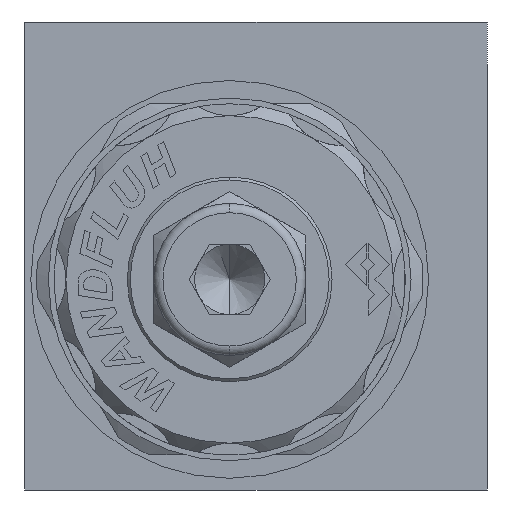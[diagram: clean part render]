
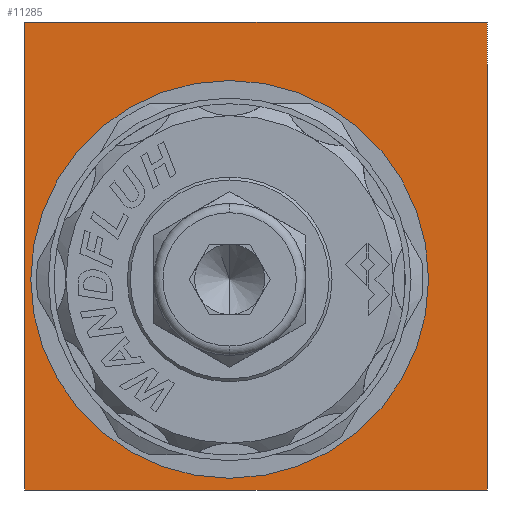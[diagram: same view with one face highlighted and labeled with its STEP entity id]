
A CAD part, left-side view. The second image highlights one B-rep face of the part: STEP entity #11285.
In plain terms, the highlighted planar face has unit normal (-1, 0, 0).
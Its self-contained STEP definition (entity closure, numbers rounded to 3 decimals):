
#407 = LINE ( 'NONE', #9235, #18691 ) ;
#766 = DIRECTION ( 'NONE',  ( -1., 0., 0. ) ) ;
#956 = LINE ( 'NONE', #16717, #9394 ) ;
#1184 = EDGE_CURVE ( 'NONE', #13690, #20050, #956, .T. ) ;
#1591 = CARTESIAN_POINT ( 'NONE',  ( 0., 2.25, -2. ) ) ;
#2503 = DIRECTION ( 'NONE',  ( 0., -1., 0. ) ) ;
#2533 = DIRECTION ( 'NONE',  ( 0., 0., -1. ) ) ;
#2637 = ORIENTED_EDGE ( 'NONE', *, *, #8347, .F. ) ;
#2803 = EDGE_LOOP ( 'NONE', ( #6827, #4906, #2637, #9630 ) ) ;
#2936 = CARTESIAN_POINT ( 'NONE',  ( 0., 2.25, 15. ) ) ;
#3382 = VECTOR ( 'NONE', #2533, 1000. ) ;
#3391 = DIRECTION ( 'NONE',  ( 0., 0., 1. ) ) ;
#3426 = VERTEX_POINT ( 'NONE', #11406 ) ;
#4804 = CARTESIAN_POINT ( 'NONE',  ( 0., 19.75, -20. ) ) ;
#4906 = ORIENTED_EDGE ( 'NONE', *, *, #6722, .F. ) ;
#5335 = CARTESIAN_POINT ( 'NONE',  ( 0., -19.75, 20. ) ) ;
#5484 = EDGE_LOOP ( 'NONE', ( #19890, #20355 ) ) ;
#5957 = EDGE_CURVE ( 'NONE', #12004, #16173, #7568, .T. ) ;
#6722 = EDGE_CURVE ( 'NONE', #6945, #13690, #8116, .T. ) ;
#6827 = ORIENTED_EDGE ( 'NONE', *, *, #1184, .F. ) ;
#6945 = VERTEX_POINT ( 'NONE', #5335 ) ;
#7301 = AXIS2_PLACEMENT_3D ( 'NONE', #20425, #9892, #22221 ) ;
#7568 = CIRCLE ( 'NONE', #7301, 17. ) ;
#8116 = LINE ( 'NONE', #14856, #3382 ) ;
#8347 = EDGE_CURVE ( 'NONE', #3426, #6945, #14618, .T. ) ;
#9235 = CARTESIAN_POINT ( 'NONE',  ( 0., 19.75, 20. ) ) ;
#9281 = AXIS2_PLACEMENT_3D ( 'NONE', #11416, #766, #13147 ) ;
#9394 = VECTOR ( 'NONE', #11287, 1000. ) ;
#9630 = ORIENTED_EDGE ( 'NONE', *, *, #12309, .F. ) ;
#9892 = DIRECTION ( 'NONE',  ( -1., 0., 0. ) ) ;
#10563 = FACE_OUTER_BOUND ( 'NONE', #2803, .T. ) ;
#11285 = ADVANCED_FACE ( 'NONE', ( #19899, #10563 ), #11345, .T. ) ;
#11287 = DIRECTION ( 'NONE',  ( 0., 1., 0. ) ) ;
#11345 = PLANE ( 'NONE',  #9281 ) ;
#11358 = CARTESIAN_POINT ( 'NONE',  ( 0., -19.75, 20. ) ) ;
#11406 = CARTESIAN_POINT ( 'NONE',  ( 0., 19.75, 20. ) ) ;
#11416 = CARTESIAN_POINT ( 'NONE',  ( 0., 19.75, -20. ) ) ;
#11421 = AXIS2_PLACEMENT_3D ( 'NONE', #1591, #13994, #3391 ) ;
#12004 = VERTEX_POINT ( 'NONE', #13197 ) ;
#12309 = EDGE_CURVE ( 'NONE', #20050, #3426, #407, .T. ) ;
#13147 = DIRECTION ( 'NONE',  ( 0., 0., 1. ) ) ;
#13197 = CARTESIAN_POINT ( 'NONE',  ( 0., 2.25, -19. ) ) ;
#13690 = VERTEX_POINT ( 'NONE', #22421 ) ;
#13994 = DIRECTION ( 'NONE',  ( -1., 0., 0. ) ) ;
#14618 = LINE ( 'NONE', #11358, #18764 ) ;
#14856 = CARTESIAN_POINT ( 'NONE',  ( 0., -19.75, 20. ) ) ;
#16173 = VERTEX_POINT ( 'NONE', #2936 ) ;
#16717 = CARTESIAN_POINT ( 'NONE',  ( 0., -19.75, -20. ) ) ;
#17493 = CIRCLE ( 'NONE', #11421, 17. ) ;
#18691 = VECTOR ( 'NONE', #21559, 1000. ) ;
#18764 = VECTOR ( 'NONE', #2503, 1000. ) ;
#19890 = ORIENTED_EDGE ( 'NONE', *, *, #22111, .F. ) ;
#19899 = FACE_BOUND ( 'NONE', #5484, .T. ) ;
#20050 = VERTEX_POINT ( 'NONE', #4804 ) ;
#20355 = ORIENTED_EDGE ( 'NONE', *, *, #5957, .F. ) ;
#20425 = CARTESIAN_POINT ( 'NONE',  ( 0., 2.25, -2. ) ) ;
#21559 = DIRECTION ( 'NONE',  ( 0., 0., 1. ) ) ;
#22111 = EDGE_CURVE ( 'NONE', #16173, #12004, #17493, .T. ) ;
#22221 = DIRECTION ( 'NONE',  ( 0., 0., 1. ) ) ;
#22421 = CARTESIAN_POINT ( 'NONE',  ( 0., -19.75, -20. ) ) ;
